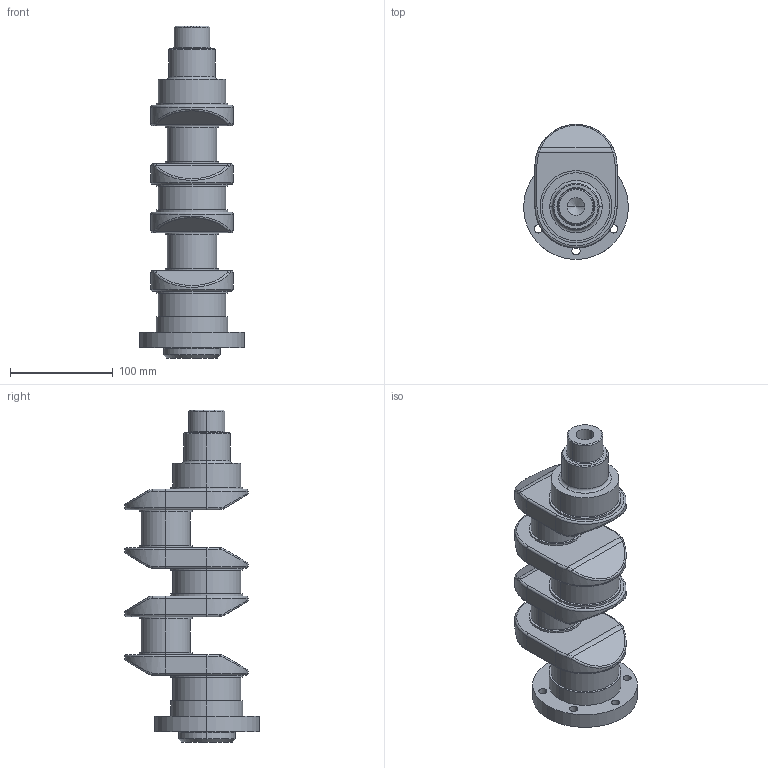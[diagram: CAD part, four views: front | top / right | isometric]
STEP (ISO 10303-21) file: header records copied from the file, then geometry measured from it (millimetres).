
FILE_DESCRIPTION (( 'STEP AP214' ), '1' );
FILE_NAME ('Crankshaft.STEP', '2026-01-27T23:16:46', ( '' ), ( '' ), 'SwSTEP 2.0', 'SolidWorks 2025', '' );
FILE_SCHEMA (( 'AUTOMOTIVE_DESIGN' ));
Length unit declared in the file: millimetre
Products named in the file (1): Crankshaft
Bounding box: 102 x 131 x 323 mm (x, y, z)
Volume: 1248029.6 mm3; surface area: 127640.4 mm2
Topology: 1 solids, 1 shells, 187 faces, 414 edges, 249 vertices
Faces by surface type: cylinder 82, plane 39, torus 30, bspline 28, cone 8
Entity records: 6071 total; most frequent: CARTESIAN_POINT 1957, DIRECTION 910, ORIENTED_EDGE 824, EDGE_CURVE 412, AXIS2_PLACEMENT_3D 394, VERTEX_POINT 249, CIRCLE 234, EDGE_LOOP 221
